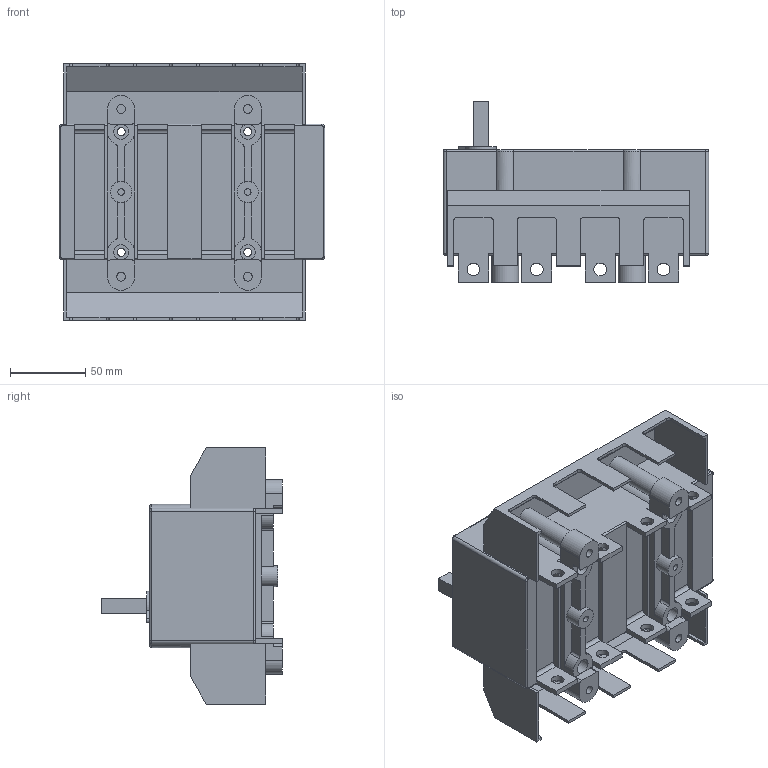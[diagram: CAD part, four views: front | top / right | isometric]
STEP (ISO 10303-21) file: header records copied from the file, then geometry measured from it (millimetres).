
FILE_DESCRIPTION(/* description */ (''),/* implementation_level */ '2;1');
FILE_NAME(/* name */ 'RA250 P3 NC z oslona zaciskow.stp',/* time_stamp */ '2021-08-18T08:35:39+02:00',/* author */ (''),/* organization */ (''),/* preprocessor_version */ 'ST-DEVELOPER v18.1',/* originating_system */ 'SIEMENS PLM Software NX 1965',/* authorisation */ '');
FILE_SCHEMA (('AUTOMOTIVE_DESIGN { 1 0 10303 214 3 1 1 1 }'));
Length unit declared in the file: millimetre
Products named in the file (1): RA250 P3 NC z oslona zaciskow_stp
Bounding box: 176 x 120 x 169.8 mm (x, y, z)
Volume: 1207621.5 mm3; surface area: 159324.7 mm2
Topology: 1 solids, 1 shells, 320 faces, 922 edges, 602 vertices
Faces by surface type: plane 178, cylinder 130, torus 7, bspline 5
Full cylindrical faces by diameter (mm): 4.3 x2, 5.3 x4, 5.8 x4, 8.5 x8, 10 x12, 13 x4, 14 x2
Entity records: 10319 total; most frequent: CARTESIAN_POINT 1912, DIRECTION 1760, ORIENTED_EDGE 1716, EDGE_CURVE 858, AXIS2_PLACEMENT_3D 602, VERTEX_POINT 574, LINE 556, VECTOR 556
